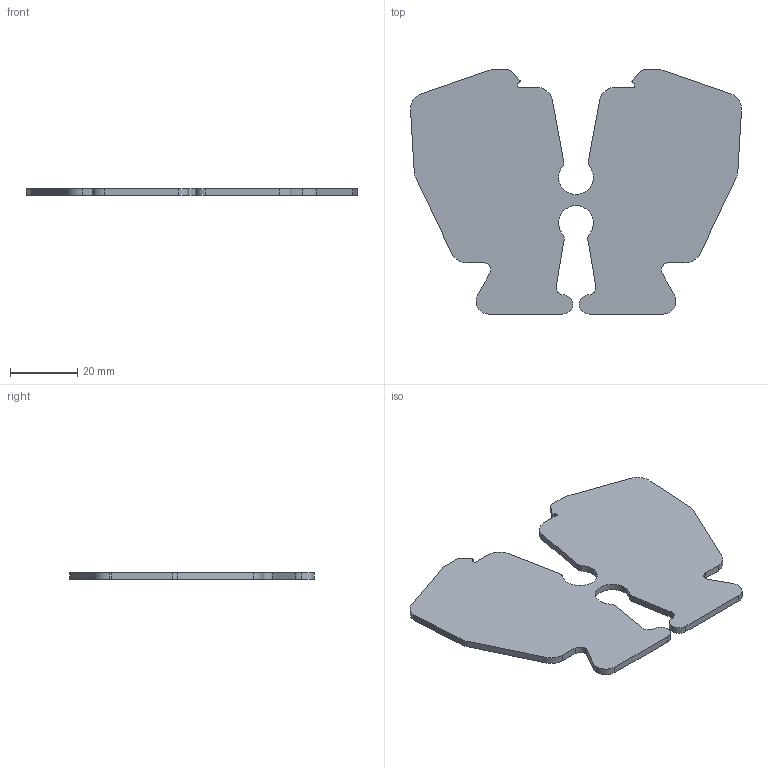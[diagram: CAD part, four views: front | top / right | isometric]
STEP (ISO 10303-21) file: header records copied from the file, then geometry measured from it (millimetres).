
FILE_DESCRIPTION (( 'STEP AP214' ), '1' );
FILE_NAME ('SN20S 蝴蝶片7.817.607.02SW.STEP', '2025-02-19T03:36:33', ( 'admin' ), ( '' ), 'SwSTEP 2.0', 'SolidWorks 2022', '' );
FILE_SCHEMA (( 'AUTOMOTIVE_DESIGN' ));
Length unit declared in the file: millimetre
Products named in the file (1): SN20S 蝴蝶片7.817.607.02SW
Bounding box: 98.29 x 72.48 x 2 mm (x, y, z)
Volume: 10149.8 mm3; surface area: 11035 mm2
Topology: 1 solids, 1 shells, 72 faces, 210 edges, 140 vertices
Faces by surface type: cylinder 44, plane 28
Entity records: 2456 total; most frequent: DIRECTION 444, CARTESIAN_POINT 423, ORIENTED_EDGE 420, EDGE_CURVE 210, AXIS2_PLACEMENT_3D 161, VERTEX_POINT 140, VECTOR 122, LINE 122
